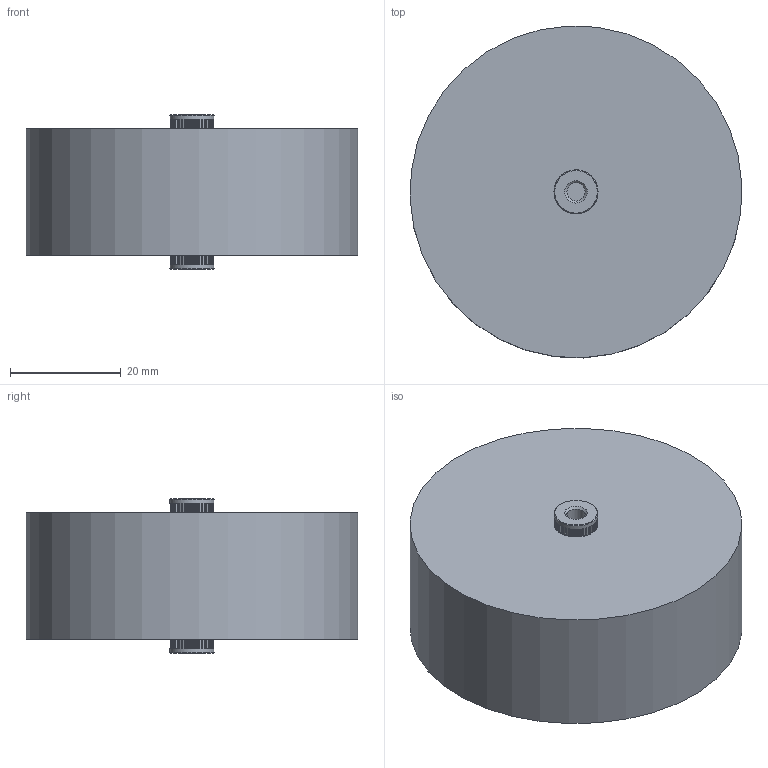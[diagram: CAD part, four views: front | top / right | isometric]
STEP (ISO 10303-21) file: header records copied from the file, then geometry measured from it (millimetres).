
FILE_DESCRIPTION((''),'2;1');
FILE_NAME('I:\Marketing\M6t1\M6T1 - Internal\Drawings\Werk 3\Finished product\Ceramite\Upload for homepage\715\Unterordner\715C30KTD27\Baugruppe1.stp','2013-06-10T11:11:27',('sherden'),(''),'Autodesk Inventor 2013','Autodesk Inventor 2013','');
FILE_SCHEMA(('AUTOMOTIVE_DESIGN { 1 2 10303 214 0 1 1 1 }'));
Length unit declared in the file: millimetre
Products named in the file (4): Baugruppe1; 7110-15T1502MAA-2-A; 5834-A-Schraubanschluss; Vergossen
Assembly tree (4 placements, depth 2):
  Baugruppe1
    7110-15T1502MAA-2-A
    5834-A-Schraubanschluss  x2
    Vergossen
Bounding box: 59.94 x 59.94 x 28 mm (x, y, z)
Volume: 64964 mm3; surface area: 20247.3 mm2
Topology: 4 solids, 4 shells, 753 faces, 1977 edges, 1314 vertices
Faces by surface type: plane 732, cylinder 13, cone 8
Full cylindrical faces by diameter (mm): 3.302 x2, 7.95 x4, 9.525 x4, 42.037 x2, 60 x1
Entity records: 17418 total; most frequent: CARTESIAN_POINT 2992, ORIENTED_EDGE 2920, DIRECTION 2824, EDGE_CURVE 1460, VECTOR 1200, LINE 1200, VERTEX_POINT 980, AXIS2_PLACEMENT_3D 812
